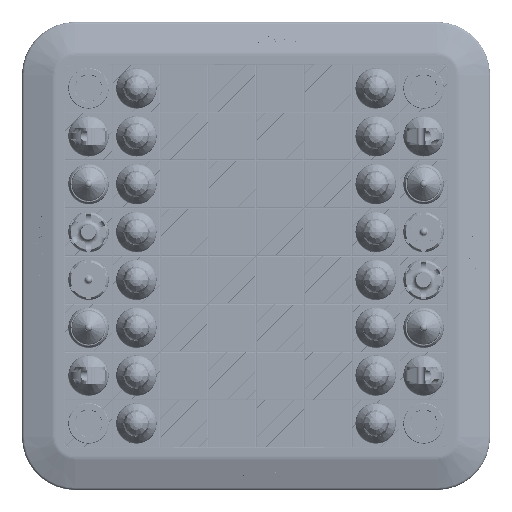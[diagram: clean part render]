
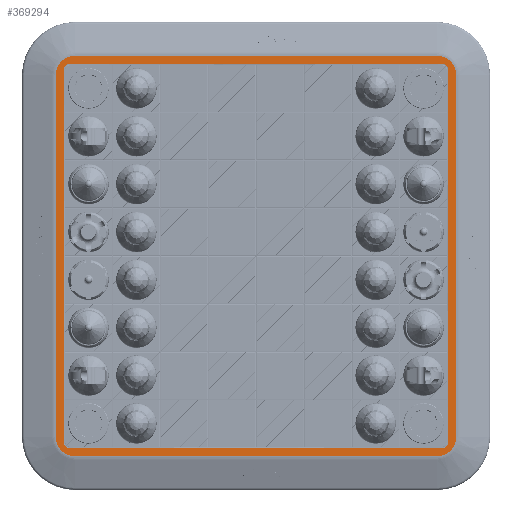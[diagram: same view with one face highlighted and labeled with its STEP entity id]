
A CAD part, top view. The second image highlights one B-rep face of the part: STEP entity #369294.
In plain terms, the highlighted planar face has unit normal (0, 0, 1).
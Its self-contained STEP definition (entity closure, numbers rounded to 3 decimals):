
#369149=CARTESIAN_POINT('',(207.215,207.215,0.0));
#369150=DIRECTION('',(0.0,0.0,1.0));
#369151=DIRECTION('',(-1.0,0.0,0.0));
#369152=AXIS2_PLACEMENT_3D('',#369149,#369150,#369151);
#369153=PLANE('',#369152);
#369154=CARTESIAN_POINT('',(170.0,-188.377,0.));
#369155=VERTEX_POINT('',#369154);
#369156=CARTESIAN_POINT('',(188.377,-170.0,0.));
#369157=VERTEX_POINT('',#369156);
#369158=CARTESIAN_POINT('',(170.,-170.,0.));
#369159=DIRECTION('',(0.,0.,1.0));
#369160=DIRECTION('',(0.,-1.0,0.));
#369161=AXIS2_PLACEMENT_3D('',#369158,#369159,#369160);
#369162=CIRCLE('',#369161,18.377);
#369163=EDGE_CURVE('',#369155,#369157,#369162,.T.);
#369164=ORIENTED_EDGE('',*,*,#369163,.T.);
#369165=CARTESIAN_POINT('',(188.377,170.0,0.));
#369166=VERTEX_POINT('',#369165);
#369167=CARTESIAN_POINT('',(188.377,-170.0,0.));
#369168=DIRECTION('',(0.0,1.0,0.0));
#369169=VECTOR('',#369168,1.0);
#369170=LINE('',#369167,#369169);
#369171=EDGE_CURVE('',#369157,#369166,#369170,.T.);
#369172=ORIENTED_EDGE('',*,*,#369171,.T.);
#369173=CARTESIAN_POINT('',(170.0,188.377,0.));
#369174=VERTEX_POINT('',#369173);
#369175=CARTESIAN_POINT('',(170.,170.,0.));
#369176=DIRECTION('',(0.0,0.0,1.0));
#369177=DIRECTION('',(1.0,0.0,0.0));
#369178=AXIS2_PLACEMENT_3D('',#369175,#369176,#369177);
#369179=CIRCLE('',#369178,18.377);
#369180=EDGE_CURVE('',#369166,#369174,#369179,.T.);
#369181=ORIENTED_EDGE('',*,*,#369180,.T.);
#369182=CARTESIAN_POINT('',(-170.0,188.377,0.));
#369183=VERTEX_POINT('',#369182);
#369184=CARTESIAN_POINT('',(170.0,188.377,0.));
#369185=DIRECTION('',(-1.0,0.0,0.0));
#369186=VECTOR('',#369185,1.0);
#369187=LINE('',#369184,#369186);
#369188=EDGE_CURVE('',#369174,#369183,#369187,.T.);
#369189=ORIENTED_EDGE('',*,*,#369188,.T.);
#369190=CARTESIAN_POINT('',(-188.377,170.0,0.));
#369191=VERTEX_POINT('',#369190);
#369192=CARTESIAN_POINT('',(-170.,170.,0.));
#369193=DIRECTION('',(0.,0.,1.0));
#369194=DIRECTION('',(0.,1.0,0.));
#369195=AXIS2_PLACEMENT_3D('',#369192,#369193,#369194);
#369196=CIRCLE('',#369195,18.377);
#369197=EDGE_CURVE('',#369183,#369191,#369196,.T.);
#369198=ORIENTED_EDGE('',*,*,#369197,.T.);
#369199=CARTESIAN_POINT('',(-188.377,-170.0,0.));
#369200=VERTEX_POINT('',#369199);
#369201=CARTESIAN_POINT('',(-188.377,170.0,0.));
#369202=DIRECTION('',(0.0,-1.0,0.0));
#369203=VECTOR('',#369202,1.0);
#369204=LINE('',#369201,#369203);
#369205=EDGE_CURVE('',#369191,#369200,#369204,.T.);
#369206=ORIENTED_EDGE('',*,*,#369205,.T.);
#369207=CARTESIAN_POINT('',(-170.0,-188.377,0.));
#369208=VERTEX_POINT('',#369207);
#369209=CARTESIAN_POINT('',(-170.,-170.,0.));
#369210=DIRECTION('',(0.,0.,1.0));
#369211=DIRECTION('',(-1.0,0.,0.));
#369212=AXIS2_PLACEMENT_3D('',#369209,#369210,#369211);
#369213=CIRCLE('',#369212,18.377);
#369214=EDGE_CURVE('',#369200,#369208,#369213,.T.);
#369215=ORIENTED_EDGE('',*,*,#369214,.T.);
#369216=CARTESIAN_POINT('',(-170.0,-188.377,0.));
#369217=DIRECTION('',(1.0,0.0,0.0));
#369218=VECTOR('',#369217,1.0);
#369219=LINE('',#369216,#369218);
#369220=EDGE_CURVE('',#369208,#369155,#369219,.T.);
#369221=ORIENTED_EDGE('',*,*,#369220,.T.);
#369222=EDGE_LOOP('',(#369164,#369172,#369181,#369189,#369198,#369206,#369215,#369221));
#369223=FACE_OUTER_BOUND('',#369222,.T.);
#369224=CARTESIAN_POINT('',(-180.768,-175.0,0.));
#369225=VERTEX_POINT('',#369224);
#369226=CARTESIAN_POINT('',(-175.0,-180.768,0.));
#369227=VERTEX_POINT('',#369226);
#369228=CARTESIAN_POINT('',(-175.,-175.,0.));
#369229=DIRECTION('',(0.,0.,1.0));
#369230=DIRECTION('',(-1.0,0.,0.));
#369231=AXIS2_PLACEMENT_3D('',#369228,#369229,#369230);
#369232=CIRCLE('',#369231,5.768);
#369233=EDGE_CURVE('',#369225,#369227,#369232,.T.);
#369234=ORIENTED_EDGE('',*,*,#369233,.F.);
#369235=CARTESIAN_POINT('',(-180.768,175.0,0.));
#369236=VERTEX_POINT('',#369235);
#369237=CARTESIAN_POINT('',(-180.768,-135.0,0.));
#369238=DIRECTION('',(0.0,-1.0,0.0));
#369239=VECTOR('',#369238,1.0);
#369240=LINE('',#369237,#369239);
#369241=EDGE_CURVE('',#369236,#369225,#369240,.T.);
#369242=ORIENTED_EDGE('',*,*,#369241,.F.);
#369243=CARTESIAN_POINT('',(-175.0,180.768,0.));
#369244=VERTEX_POINT('',#369243);
#369245=CARTESIAN_POINT('',(-175.,175.,0.));
#369246=DIRECTION('',(0.,0.,1.0));
#369247=DIRECTION('',(0.,1.0,0.));
#369248=AXIS2_PLACEMENT_3D('',#369245,#369246,#369247);
#369249=CIRCLE('',#369248,5.768);
#369250=EDGE_CURVE('',#369244,#369236,#369249,.T.);
#369251=ORIENTED_EDGE('',*,*,#369250,.F.);
#369252=CARTESIAN_POINT('',(175.,180.768,0.));
#369253=VERTEX_POINT('',#369252);
#369254=CARTESIAN_POINT('',(-135.,180.768,0.));
#369255=DIRECTION('',(-1.0,0.0,0.0));
#369256=VECTOR('',#369255,1.0);
#369257=LINE('',#369254,#369256);
#369258=EDGE_CURVE('',#369253,#369244,#369257,.T.);
#369259=ORIENTED_EDGE('',*,*,#369258,.F.);
#369260=CARTESIAN_POINT('',(180.768,175.0,0.));
#369261=VERTEX_POINT('',#369260);
#369262=CARTESIAN_POINT('',(175.,175.,0.));
#369263=DIRECTION('',(0.0,0.0,1.0));
#369264=DIRECTION('',(1.0,0.0,0.0));
#369265=AXIS2_PLACEMENT_3D('',#369262,#369263,#369264);
#369266=CIRCLE('',#369265,5.768);
#369267=EDGE_CURVE('',#369261,#369253,#369266,.T.);
#369268=ORIENTED_EDGE('',*,*,#369267,.F.);
#369269=CARTESIAN_POINT('',(180.768,-175.0,0.));
#369270=VERTEX_POINT('',#369269);
#369271=CARTESIAN_POINT('',(180.768,135.0,0.));
#369272=DIRECTION('',(0.0,1.0,0.0));
#369273=VECTOR('',#369272,1.0);
#369274=LINE('',#369271,#369273);
#369275=EDGE_CURVE('',#369270,#369261,#369274,.T.);
#369276=ORIENTED_EDGE('',*,*,#369275,.F.);
#369277=CARTESIAN_POINT('',(175.0,-180.768,0.));
#369278=VERTEX_POINT('',#369277);
#369279=CARTESIAN_POINT('',(175.,-175.,0.));
#369280=DIRECTION('',(0.,0.,1.0));
#369281=DIRECTION('',(0.,-1.0,0.));
#369282=AXIS2_PLACEMENT_3D('',#369279,#369280,#369281);
#369283=CIRCLE('',#369282,5.768);
#369284=EDGE_CURVE('',#369278,#369270,#369283,.T.);
#369285=ORIENTED_EDGE('',*,*,#369284,.F.);
#369286=CARTESIAN_POINT('',(135.0,-180.768,0.));
#369287=DIRECTION('',(1.0,0.0,0.0));
#369288=VECTOR('',#369287,1.0);
#369289=LINE('',#369286,#369288);
#369290=EDGE_CURVE('',#369227,#369278,#369289,.T.);
#369291=ORIENTED_EDGE('',*,*,#369290,.F.);
#369292=EDGE_LOOP('',(#369234,#369242,#369251,#369259,#369268,#369276,#369285,#369291));
#369293=FACE_BOUND('',#369292,.T.);
#369294=ADVANCED_FACE('',(#369223,#369293),#369153,.T.);
